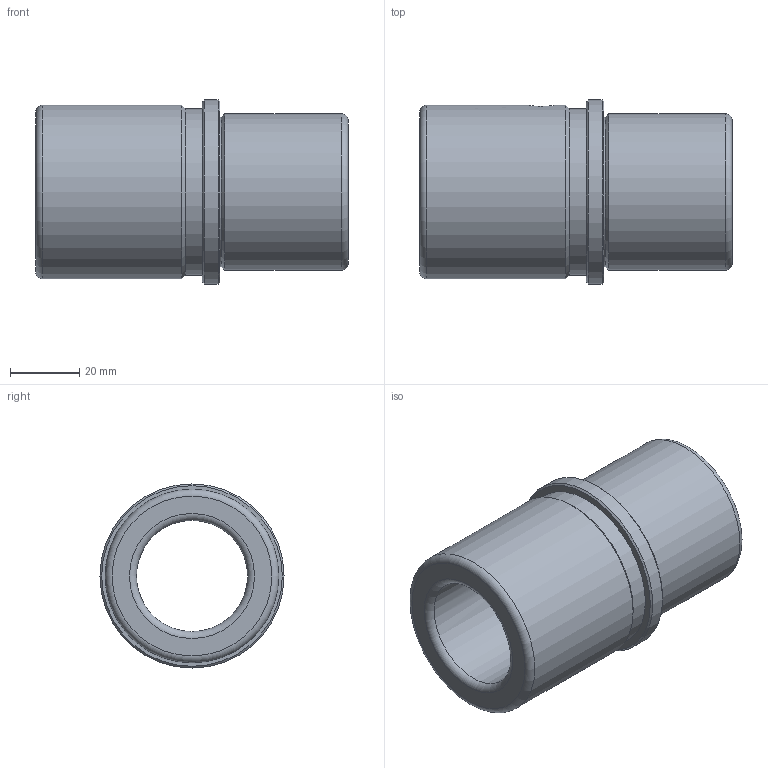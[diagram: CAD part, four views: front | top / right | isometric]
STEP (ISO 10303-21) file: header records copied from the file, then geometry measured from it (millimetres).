
FILE_DESCRIPTION( ( 'STEP AP214' ), '1' );
FILE_NAME( 'p:/temp/worker_30/temp/exporttempdir_5852_117_AqjZJ/format_2/WZ - 4051 32 x 90.stp', '2020-12-04T19:42:09', ( 'License CC BY-ND 4.0' ), ( 'CADENAS' ), ' ', 'PARTsolutions', ' ' );
FILE_SCHEMA( ( 'AUTOMOTIVE_DESIGN { 1 0 10303 214 1 1 1 1 }' ) );
Length unit declared in the file: millimetre
Products named in the file (1): _WZ - 4051 32 x 90
Bounding box: 90 x 53 x 53 mm (x, y, z)
Volume: 89529.7 mm3; surface area: 25625.3 mm2
Topology: 1 solids, 1 shells, 21 faces, 38 edges, 22 vertices
Faces by surface type: cylinder 7, cone 5, plane 5, torus 4
Full cylindrical faces by diameter (mm): 8.376 x1, 32 x1, 43 x1, 45 x1, 48 x1, 50 x1, 53 x1
Entity records: 750 total; most frequent: CARTESIAN_POINT 196, DIRECTION 84, EDGE_LOOP 44, ORIENTED_EDGE 44, AXIS2_PLACEMENT_3D 42, FACE_OUTER_BOUND 32, EDGE_CURVE 22, VERTEX_POINT 22
